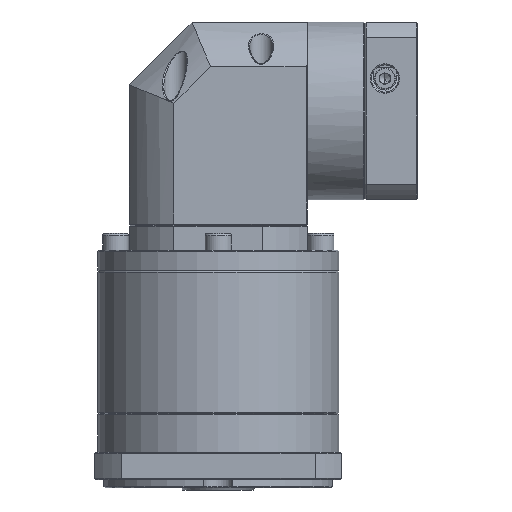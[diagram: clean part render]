
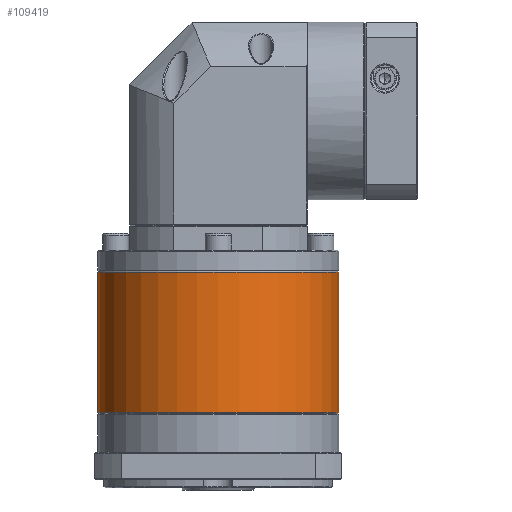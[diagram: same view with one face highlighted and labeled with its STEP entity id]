
A CAD part, front view. The second image highlights one B-rep face of the part: STEP entity #109419.
In plain terms, the highlighted cylindrical face has radius 57.5 mm (diameter 115 mm), a partial arc.
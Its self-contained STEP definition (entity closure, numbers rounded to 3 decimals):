
#4905 = LINE ( 'NONE', #73341, #84582 ) ;
#10148 = EDGE_CURVE ( 'NONE', #67226, #76242, #4905, .T. ) ;
#10555 = DIRECTION ( 'NONE',  ( 0., 0., -1. ) ) ;
#11032 = CYLINDRICAL_SURFACE ( 'NONE', #116454, 57.5 ) ;
#17136 = VERTEX_POINT ( 'NONE', #20005 ) ;
#20005 = CARTESIAN_POINT ( 'NONE',  ( -26.719, 114.932, -60.054 ) ) ;
#20083 = CARTESIAN_POINT ( 'NONE',  ( 30.781, 114.932, -127.265 ) ) ;
#21434 = CIRCLE ( 'NONE', #111704, 57.5 ) ;
#28190 = CARTESIAN_POINT ( 'NONE',  ( 88.281, 114.932, -60.054 ) ) ;
#30235 = DIRECTION ( 'NONE',  ( 0., 0., -1. ) ) ;
#38925 = VERTEX_POINT ( 'NONE', #55218 ) ;
#41871 = AXIS2_PLACEMENT_3D ( 'NONE', #20083, #75547, #41899 ) ;
#41899 = DIRECTION ( 'NONE',  ( -1., 0., 0. ) ) ;
#50276 = ORIENTED_EDGE ( 'NONE', *, *, #55956, .T. ) ;
#51936 = DIRECTION ( 'NONE',  ( -1., 0., 0. ) ) ;
#55218 = CARTESIAN_POINT ( 'NONE',  ( 30.781, 57.432, -60.054 ) ) ;
#55956 = EDGE_CURVE ( 'NONE', #67226, #38925, #133383, .T. ) ;
#57602 = LINE ( 'NONE', #80669, #124316 ) ;
#66245 = EDGE_CURVE ( 'NONE', #38925, #17136, #21434, .T. ) ;
#67226 = VERTEX_POINT ( 'NONE', #28190 ) ;
#71102 = ORIENTED_EDGE ( 'NONE', *, *, #10148, .F. ) ;
#73341 = CARTESIAN_POINT ( 'NONE',  ( 88.281, 114.932, -59.554 ) ) ;
#74614 = CIRCLE ( 'NONE', #41871, 57.5 ) ;
#75003 = ORIENTED_EDGE ( 'NONE', *, *, #116284, .T. ) ;
#75547 = DIRECTION ( 'NONE',  ( 0., 0., 1. ) ) ;
#76242 = VERTEX_POINT ( 'NONE', #96319 ) ;
#80669 = CARTESIAN_POINT ( 'NONE',  ( -26.719, 114.932, -59.554 ) ) ;
#84582 = VECTOR ( 'NONE', #10555, 1000. ) ;
#86643 = DIRECTION ( 'NONE',  ( -1., 0., 0. ) ) ;
#86685 = VERTEX_POINT ( 'NONE', #126252 ) ;
#90374 = ORIENTED_EDGE ( 'NONE', *, *, #96932, .T. ) ;
#91147 = ORIENTED_EDGE ( 'NONE', *, *, #66245, .T. ) ;
#92471 = CARTESIAN_POINT ( 'NONE',  ( 30.781, 114.932, -60.054 ) ) ;
#92770 = DIRECTION ( 'NONE',  ( 0., 0., -1. ) ) ;
#93634 = CARTESIAN_POINT ( 'NONE',  ( 30.781, 114.932, -59.554 ) ) ;
#94711 = AXIS2_PLACEMENT_3D ( 'NONE', #118490, #108916, #86643 ) ;
#95503 = FACE_OUTER_BOUND ( 'NONE', #112269, .T. ) ;
#96319 = CARTESIAN_POINT ( 'NONE',  ( 88.281, 114.932, -127.265 ) ) ;
#96932 = EDGE_CURVE ( 'NONE', #17136, #86685, #57602, .T. ) ;
#102986 = DIRECTION ( 'NONE',  ( -1., 0., 0. ) ) ;
#108916 = DIRECTION ( 'NONE',  ( 0., 0., -1. ) ) ;
#109419 = ADVANCED_FACE ( 'NONE', ( #95503 ), #11032, .T. ) ;
#111704 = AXIS2_PLACEMENT_3D ( 'NONE', #92471, #124433, #102986 ) ;
#112269 = EDGE_LOOP ( 'NONE', ( #71102, #50276, #91147, #90374, #75003 ) ) ;
#116284 = EDGE_CURVE ( 'NONE', #86685, #76242, #74614, .T. ) ;
#116454 = AXIS2_PLACEMENT_3D ( 'NONE', #93634, #92770, #51936 ) ;
#118490 = CARTESIAN_POINT ( 'NONE',  ( 30.781, 114.932, -60.054 ) ) ;
#124316 = VECTOR ( 'NONE', #30235, 1000. ) ;
#124433 = DIRECTION ( 'NONE',  ( 0., 0., -1. ) ) ;
#126252 = CARTESIAN_POINT ( 'NONE',  ( -26.719, 114.932, -127.265 ) ) ;
#133383 = CIRCLE ( 'NONE', #94711, 57.5 ) ;
